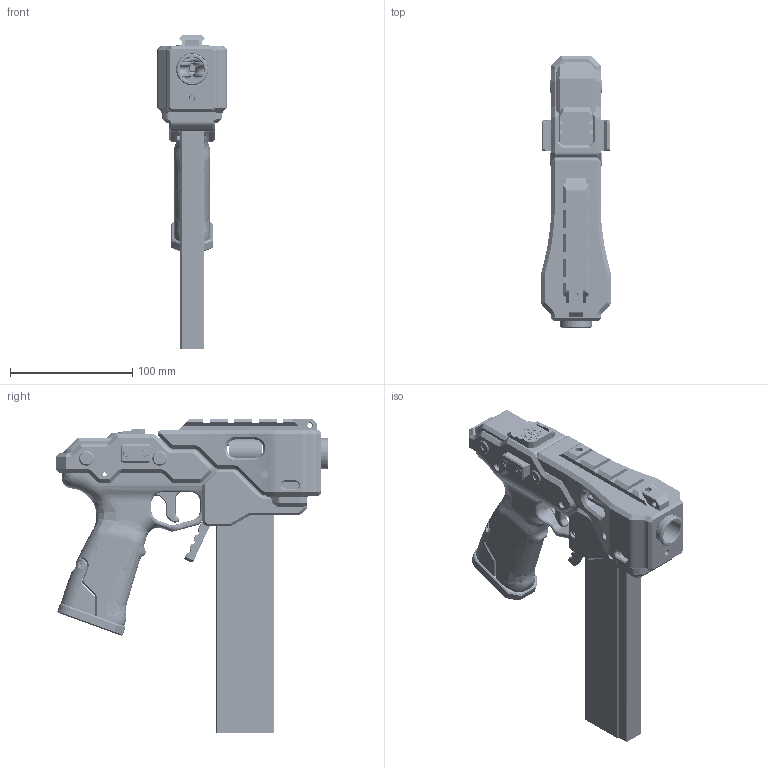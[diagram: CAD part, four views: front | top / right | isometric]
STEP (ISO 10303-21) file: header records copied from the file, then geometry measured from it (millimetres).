
FILE_DESCRIPTION(/* description */ ('STEP AP242 Edition 2','CAx-IF Rec.Pracs.---Representation and Presentation of Product Manufacturing Information (PMI)---4.0---2014-10-13','CAx-IF Rec.Pracs.---3D Tessellated Geometry---0.4---2014-09-14','2;1','CAx-IF Rec.Pracs.---User Defined Attributes---1.5---2016-08-15'),/* implementation_level */ '2;1');
FILE_NAME(/* name */ '6ab33f2bd8d7b9c77c75ef24',/* time_stamp */ '2026-09-23T02:53:36Z',/* author */ (''),/* organization */ (''),/* preprocessor_version */ 'ST-DEVELOPER v20',/* originating_system */ 'ONSHAPE BY PTC INC, 1.221',/* authorisation */ ' ');
FILE_SCHEMA (('AP242_MANAGED_MODEL_BASED_3D_ENGINEERING_MIM_LF { 1 0 10303 442 3 1 4 }'));
Products named in the file (66): Export Assembly; Body; Top Slide Subassembly <2>; Top Slide; Mag Release; Magwell Cover; Top Slide Subassembly <7>; Talon v2; Top Slide Subassembly <6>; Top Slide Subassembly <3>; Battery Door; Top Slide Subassembly <4>; Top Slide Subassembly <1>; Front Cover Subassembly <1>; Upper Rail; Front Cover; Common Orange Tip; Noid Subasssembly <1>; Noid Control Panel; Noid Dart Guide; Noid Trigger; Noid Base; Noid Pusher; Noid Pack Right; Noid Pack Left; Console Cover Noid; Full Auto Subassembly <1>; Pusher Wheel; Auto Control Panel; Auto Pack Right; Auto Trigger; Console Cover; Auto Pusher; Auto Dart Guide; Auto Pack Left; Auto Base; Semi Auto Subassembly <1>; Semi Pack Left; Semi Pack Right; Roller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
Assembly tree (79 placements, depth 3):
  Export Assembly
    Body
    Top Slide Subassembly <2>
      Top Slide
    Mag Release
    Magwell Cover
    Body
    Top Slide Subassembly <7>
      Top Slide
    Talon v2
    Top Slide Subassembly <6>
      Top Slide
    Top Slide Subassembly <3>
      Top Slide
    Battery Door
    Top Slide Subassembly <4>
      Top Slide
    Top Slide Subassembly <1>
      Top Slide
    Front Cover Subassembly <1>
      Upper Rail
      Front Cover
      Common Orange Tip
    Noid Subasssembly <1>
      Noid Control Panel
      Noid Dart Guide
      Noid Trigger
      Noid Base
      Noid Pusher
      Noid Pack Right
      Noid Pack Left
      Console Cover Noid
    Full Auto Subassembly <1>
      Pusher Wheel
      Auto Control Panel
      Auto Pack Right
      Auto Trigger
      Console Cover
      Auto Pusher
      Auto Dart Guide
      Auto Pack Left
      Auto Base
    Semi Auto Subassembly <1>
      Semi Pack Left
      Console Cover
      Semi Pack Right
      Roller  x2
      21A Switch
      Semi Pusher
      Semi Trigger
      Semi Dart Guide
      Flippy Arm
      Semi Control Panel
    Cage Subassembly <3>
      130_Motor  x2
      FTW_Micro_Flywheel_OFD  x2
      FTW 23mm
    Cage Subassembly <2>
      130_Motor  x2
      Ngale_Wheels_V1  x2
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Bounding box: 57.2 x 223 x 257.17 mm (x, y, z)
Volume: 987474.7 mm3; surface area: 568969.7 mm2
Topology: 64 solids, 72 shells, 7143 faces, 18119 edges, 11217 vertices
Faces by surface type: plane 3742, cylinder 1813, cone 795, bspline 515, torus 264, sphere 14
Full cylindrical faces by diameter (mm): 1 x16, 1.5 x4, 1.6 x3, 1.9 x2, 1.905 x2, 2 x40, 2.2 x16, 2.4 x2, 2.75 x21, 2.8 x12, 3 x21, 3.1 x1, 3.2 x43, 3.25 x7, 3.3 x6, 3.4 x5, 3.5 x38, 4 x2, 4.4 x1, 4.5 x4, 4.75 x8, 5 x11, 5.5 x8, 6 x81, 6.15 x24, 6.75 x8, 8 x2, 17.26 x4, 19.95 x8, 20 x1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
Entity records: 222538 total; most frequent: CARTESIAN_POINT 64313, ORIENTED_EDGE 32484, DIRECTION 31546, EDGE_CURVE 16242, AXIS2_PLACEMENT_3D 10590, LINE 10366, VECTOR 10366, VERTEX_POINT 10357
